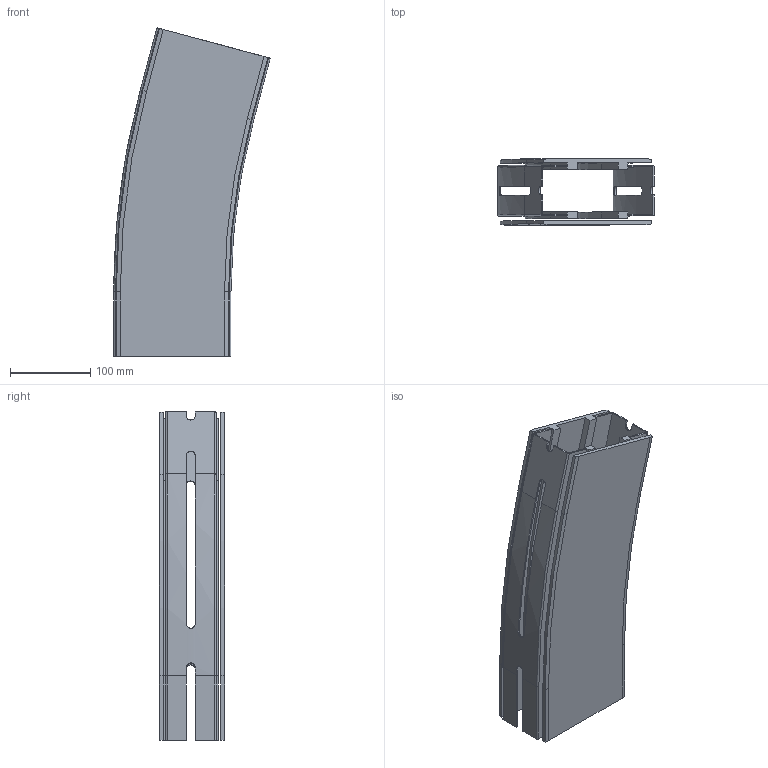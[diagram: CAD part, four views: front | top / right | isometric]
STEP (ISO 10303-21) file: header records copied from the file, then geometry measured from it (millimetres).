
FILE_DESCRIPTION(/* description */ ('GLIDKURVA SERIE 540'),/* implementation_level */ '2;1');
FILE_NAME(/* name */ '540-5375+140-2000-01.stp',/* time_stamp */ '2022-09-21T09:57:01+02:00',/* author */ ('Mathias.Dore'),/* organization */ ('CARRYLINE'),/* preprocessor_version */ 'ST-DEVELOPER v19.2',/* originating_system */ 'Autodesk Inventor 2023',/* authorisation */ '');
FILE_SCHEMA (('AUTOMOTIVE_DESIGN { 1 0 10303 214 3 1 1 }'));
Length unit declared in the file: millimetre
Products named in the file (1): 540-5375+140-2000-01
Bounding box: 194.88 x 82 x 409.11 mm (x, y, z)
Volume: 894092.8 mm3; surface area: 463041.1 mm2
Topology: 2 solids, 2 shells, 171 faces, 482 edges, 316 vertices
Faces by surface type: plane 113, cylinder 32, bspline 18, cone 4, torus 4
Entity records: 5881 total; most frequent: CARTESIAN_POINT 1392, ORIENTED_EDGE 964, DIRECTION 842, EDGE_CURVE 482, LINE 358, VECTOR 358, VERTEX_POINT 316, AXIS2_PLACEMENT_3D 242
